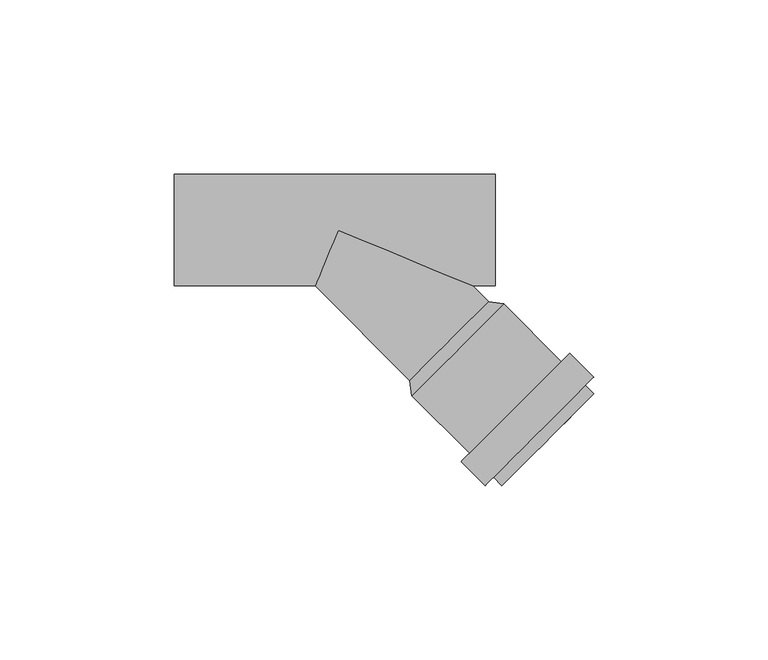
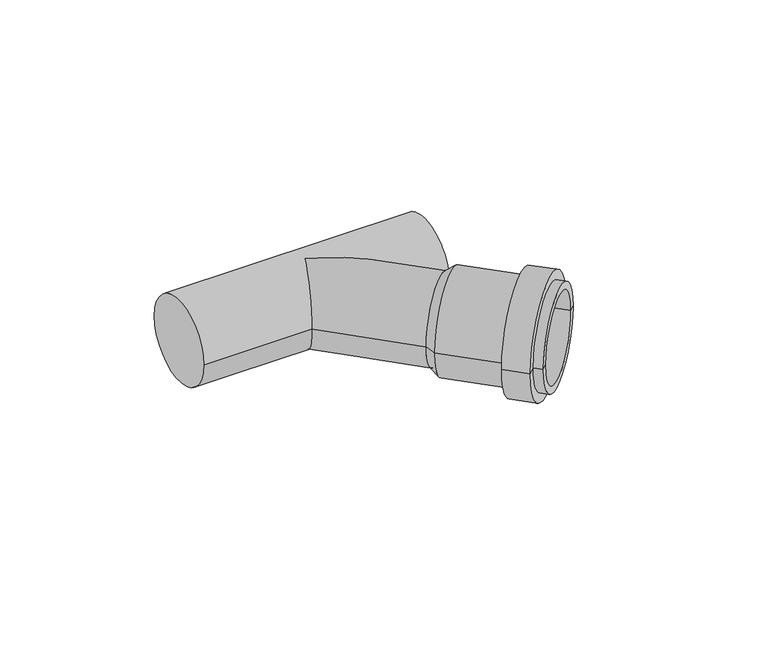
"""IFC4 building model written with IfcOpenShell, lengths in millimetres: pipe fitting geometry, pf_HTEA : pf_HTEA."""

from ifc_helpers import new_model, si_unit, frame, origin, place, context, project, spatial, polyline, circle_curve, ellipse_curve, source, transform, mapped, element, save
from ifc_brep_helpers import plane_surface, cylinder_surface, revolved_surface, advanced_brep


def pipe_fitting_c042d8dd(model_context):
    return source(origin(), model_context, "Body", "AdvancedBrep", [
        advanced_brep(
        [(20.5060967, -43.1335137, 0.0), (43.1335137, -20.5060967, 0.0), (47.446865, -21.1424928, 0.0), (21.1424928, -47.446865, 0.0), (31.8198052, -31.8198052, 0.0), (46.9518903, -73.2562625, 0.0), (73.2562625, -46.9518903, 0.0), (71.4177849, -48.7903679, 0.0), (48.7903679, -71.4177849, 0.0), (44.5477272, -70.8520995, 0.0), (70.8520995, -44.5477272, 0.0), (42.1435642, -73.2562625, 0.0), (73.2562625, -42.1435642, 0.0), (35.2846284, -66.3973268, 0.0), (66.3973268, -35.2846284, 0.0), (37.6887914, -63.9931637, 0.0), (63.9931637, -37.6887914, 0.0), (22.9809704, -45.6083874, 0.0), (45.6083874, -22.9809704, 0.0), (34.2946789, -34.2946789, 0.0)],
        [
            (0, 1, circle_curve(frame((31.8198052, -31.8198052, 0.0), z_axis=(0.7071067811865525, -0.7071067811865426, 0.0), x_axis=(0.7071067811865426, 0.7071067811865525, 0.0)), 16.0)),
            (1, 2),
            (2, 3, circle_curve(frame((34.2946789, -34.2946789, 0.0), z_axis=(-0.7071067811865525, 0.7071067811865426, 0.0), x_axis=(0.7071067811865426, 0.7071067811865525, 0.0)), 18.6)),
            (3, 0),
            (1, 0, circle_curve(frame((31.8198052, -31.8198052, 0.0), z_axis=(0.7071067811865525, -0.7071067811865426, 0.0), x_axis=(0.7071067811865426, 0.7071067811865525, 0.0)), 16.0)),
            (3, 2, circle_curve(frame((34.2946789, -34.2946789, 0.0), z_axis=(-0.7071067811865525, 0.7071067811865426, 0.0), x_axis=(0.7071067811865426, 0.7071067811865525, 0.0)), 18.6)),
            (4, 1),
            (0, 4),
            (5, 6, circle_curve(frame((60.1040764, -60.1040764, 0.0), z_axis=(0.7071067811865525, -0.7071067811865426, 0.0), x_axis=(0.7071067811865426, 0.7071067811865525, 0.0)), 18.6)),
            (6, 7),
            (7, 8, circle_curve(frame((60.1040764, -60.1040764, 0.0), z_axis=(-0.7071067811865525, 0.7071067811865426, 0.0), x_axis=(0.7071067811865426, 0.7071067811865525, 0.0)), 16.0)),
            (8, 5),
            (6, 5, circle_curve(frame((60.1040764, -60.1040764, 0.0), z_axis=(0.7071067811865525, -0.7071067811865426, 0.0), x_axis=(0.7071067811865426, 0.7071067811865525, 0.0)), 18.6)),
            (8, 7, circle_curve(frame((60.1040764, -60.1040764, 0.0), z_axis=(-0.7071067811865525, 0.7071067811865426, 0.0), x_axis=(0.7071067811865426, 0.7071067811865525, 0.0)), 16.0)),
            (9, 10, circle_curve(frame((57.6999133, -57.6999133, 0.0), z_axis=(0.7071067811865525, -0.7071067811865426, 0.0), x_axis=(0.7071067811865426, 0.7071067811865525, 0.0)), 18.6)),
            (10, 6),
            (5, 9),
            (10, 9, circle_curve(frame((57.6999133, -57.6999133, 0.0), z_axis=(0.7071067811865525, -0.7071067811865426, 0.0), x_axis=(0.7071067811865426, 0.7071067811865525, 0.0)), 18.6)),
            (11, 12, circle_curve(frame((57.6999133, -57.6999133, 0.0), z_axis=(0.7071067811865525, -0.7071067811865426, 0.0), x_axis=(0.7071067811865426, 0.7071067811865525, 0.0)), 22.0)),
            (12, 10),
            (9, 11),
            (12, 11, circle_curve(frame((57.6999133, -57.6999133, 0.0), z_axis=(0.7071067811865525, -0.7071067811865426, 0.0), x_axis=(0.7071067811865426, 0.7071067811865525, 0.0)), 22.0)),
            (13, 14, circle_curve(frame((50.8409776, -50.8409776, 0.0), z_axis=(0.7071067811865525, -0.7071067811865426, 0.0), x_axis=(0.7071067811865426, 0.7071067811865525, 0.0)), 22.0)),
            (14, 12),
            (11, 13),
            (14, 13, circle_curve(frame((50.8409776, -50.8409776, 0.0), z_axis=(0.7071067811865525, -0.7071067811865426, 0.0), x_axis=(0.7071067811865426, 0.7071067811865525, 0.0)), 22.0)),
            (15, 16, circle_curve(frame((50.8409776, -50.8409776, 0.0), z_axis=(0.7071067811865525, -0.7071067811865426, 0.0), x_axis=(0.7071067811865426, 0.7071067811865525, 0.0)), 18.6)),
            (16, 14),
            (13, 15),
            (16, 15, circle_curve(frame((50.8409776, -50.8409776, 0.0), z_axis=(0.7071067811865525, -0.7071067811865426, 0.0), x_axis=(0.7071067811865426, 0.7071067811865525, 0.0)), 18.6)),
            (2, 16),
            (15, 3),
            (17, 18, circle_curve(frame((34.2946789, -34.2946789, 0.0), z_axis=(0.7071067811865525, -0.7071067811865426, 0.0), x_axis=(0.7071067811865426, 0.7071067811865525, 0.0)), 16.0)),
            (18, 19),
            (19, 17),
            (18, 17, circle_curve(frame((34.2946789, -34.2946789, 0.0), z_axis=(0.7071067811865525, -0.7071067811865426, 0.0), x_axis=(0.7071067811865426, 0.7071067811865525, 0.0)), 16.0)),
            (7, 18),
            (17, 8),
        ],
        [
            revolved_surface(polyline([(47.446865, -21.1424928, 0.0), (43.1335137, -20.5060967, 0.0)]), (31.8198052, -31.8198052, 0.0), (-0.7071067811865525, 0.7071067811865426, 0.0)),
            plane_surface(frame((31.8198052, -31.8198052, 0.0), z_axis=(-0.7071067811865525, 0.7071067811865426, 0.0), x_axis=(0.7071067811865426, 0.7071067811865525, 0.0))),
            plane_surface(frame((60.1040764, -60.1040764, 0.0), z_axis=(0.7071067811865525, -0.7071067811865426, 0.0), x_axis=(0.7071067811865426, 0.7071067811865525, 0.0))),
            cylinder_surface(frame((31.8198052, -31.8198052, 0.0), z_axis=(-0.7071067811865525, 0.7071067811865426, 0.0), x_axis=(0.7071067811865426, 0.7071067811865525, 0.0)), 18.6),
            plane_surface(frame((57.6999133, -57.6999133, 0.0), z_axis=(0.7071067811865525, -0.7071067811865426, 0.0), x_axis=(0.7071067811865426, 0.7071067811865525, 0.0))),
            cylinder_surface(frame((31.8198052, -31.8198052, 0.0), z_axis=(-0.7071067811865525, 0.7071067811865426, 0.0), x_axis=(0.7071067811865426, 0.7071067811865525, 0.0)), 22.0),
            plane_surface(frame((50.8409776, -50.8409776, 0.0), z_axis=(-0.7071067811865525, 0.7071067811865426, 0.0), x_axis=(0.7071067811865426, 0.7071067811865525, 0.0))),
            plane_surface(frame((34.2946789, -34.2946789, 0.0), z_axis=(0.7071067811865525, -0.7071067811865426, 0.0), x_axis=(0.7071067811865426, 0.7071067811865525, 0.0))),
            revolved_surface(polyline([(45.608387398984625, -22.98097040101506, 0.0), (71.41778489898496, -48.79036790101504, 0.0)]), (31.8198052, -31.8198052, 0.0), (-0.7071067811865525, 0.7071067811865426, 0.0)),
        ],
        [
            (0, [[1, 2, 3, 4]]),
            (0, [[5, -4, 6, -2]]),
            (1, [[7, -1, 8]]),
            (1, [[-8, -5, -7]]),
            (2, [[9, 10, 11, 12]]),
            (2, [[13, -12, 14, -10]]),
            (3, [[15, 16, -9, 17]]),
            (3, [[18, -17, -13, -16]]),
            (4, [[19, 20, -15, 21]]),
            (4, [[22, -21, -18, -20]]),
            (5, [[23, 24, -19, 25]]),
            (5, [[26, -25, -22, -24]]),
            (6, [[27, 28, -23, 29]]),
            (6, [[30, -29, -26, -28]]),
            (3, [[-3, 31, -27, 32]]),
            (3, [[-6, -32, -30, -31]]),
            (7, [[33, 34, 35]]),
            (7, [[36, -35, -34]]),
            (8, [[-11, 37, -33, 38]]),
            (8, [[-14, -38, -36, -37]]),
        ],
    ),
        advanced_brep(
        [(20.5060967, -43.1335137, 0.0), (43.1335137, -20.5060967, 0.0), (-47.0, -16.0, 0.0), (-47.0, 16.0, 0.0), (45.0, -16.0, 0.0), (45.0, 16.0, 0.0), (-6.627417, -16.0, 0.0), (0.0, 0.0, 16.0), (38.627417, -16.0, 0.0), (0.0, 0.0, -16.0)],
        [
            (0, 1, circle_curve(frame((31.8198052, -31.8198052, 0.0), z_axis=(0.7071067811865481, -0.7071067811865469, 0.0), x_axis=(0.7071067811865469, 0.7071067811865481, 0.0)), 16.0)),
            (1, 0, circle_curve(frame((31.8198052, -31.8198052, 0.0), z_axis=(0.7071067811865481, -0.7071067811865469, 0.0), x_axis=(0.7071067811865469, 0.7071067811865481, 0.0)), 16.0)),
            (2, 3, circle_curve(frame((-47.0, 0.0, 0.0), z_axis=(-1.0, 0.0, 0.0), x_axis=(0.0, 1.0, 0.0)), 16.0)),
            (3, 2, circle_curve(frame((-47.0, 0.0, 0.0), z_axis=(-1.0, 0.0, 0.0), x_axis=(0.0, 1.0, 0.0)), 16.0)),
            (4, 5, circle_curve(frame((45.0, 0.0, 0.0), z_axis=(1.0, 0.0, 0.0), x_axis=(0.0, 1.0, 0.0)), 16.0)),
            (5, 4, circle_curve(frame((45.0, 0.0, 0.0), z_axis=(1.0, 0.0, 0.0), x_axis=(0.0, 1.0, 0.0)), 16.0)),
            (2, 6),
            (6, 7, ellipse_curve(frame((0.0, 0.0, 0.0), z_axis=(-0.923879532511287, 0.3826834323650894, 0.0), x_axis=(-0.3826834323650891, -0.9238795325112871, 0.0)), 17.3182752, 16.0)),
            (7, 8, ellipse_curve(frame((0.0, 0.0, 0.0), z_axis=(0.3826834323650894, 0.923879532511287, 0.0), x_axis=(-0.923879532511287, 0.38268343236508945, 0.0)), 41.8100149, 16.0)),
            (8, 4),
            (5, 3),
            (8, 9, ellipse_curve(frame((0.0, 0.0, 0.0), z_axis=(0.3826834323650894, 0.923879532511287, 0.0), x_axis=(-0.923879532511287, 0.38268343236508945, 0.0)), 41.8100149, 16.0)),
            (9, 6, ellipse_curve(frame((0.0, 0.0, 0.0), z_axis=(-0.923879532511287, 0.3826834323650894, 0.0), x_axis=(-0.3826834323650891, -0.9238795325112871, 0.0)), 17.3182752, 16.0)),
            (1, 8),
            (6, 0),
        ],
        [
            plane_surface(frame((31.8198052, -31.8198052, 0.0), z_axis=(0.7071067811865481, -0.7071067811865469, 0.0), x_axis=(0.0, 0.0, 1.0))),
            plane_surface(frame((-47.0, 0.0, 0.0), z_axis=(-1.0, 0.0, 0.0), x_axis=(0.0, 0.0, 1.0))),
            plane_surface(frame((45.0, 0.0, 0.0), z_axis=(1.0, 0.0, 0.0), x_axis=(0.0, 0.0, 1.0))),
            cylinder_surface(frame((-47.0, 0.0, 0.0), z_axis=(-1.0, 0.0, 0.0), x_axis=(0.0, 1.0, 0.0)), 16.0),
            cylinder_surface(frame((0.0, 0.0, 0.0), z_axis=(-0.7071067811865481, 0.7071067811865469, 0.0), x_axis=(0.7071067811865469, 0.7071067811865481, 0.0)), 16.0),
        ],
        [
            (0, [[1, 2]]),
            (1, [[3, 4]]),
            (2, [[5, 6]]),
            (3, [[-3, 7, 8, 9, 10, -6, 11]]),
            (3, [[-4, -11, -5, -10, 12, 13, -7]]),
            (4, [[-2, 14, -9, -8, 15]]),
            (4, [[-1, -15, -13, -12, -14]]),
        ],
    ),
    ])


if __name__ == "__main__":
    model = new_model("IFC4")
    model_context = context("Model", 3, world=origin())
    ifc_project = project(units=[si_unit("LENGTHUNIT", "METRE", prefix="MILLI")], contexts=[model_context])
    site = spatial("IfcSite", under=ifc_project)
    building = spatial("IfcBuilding", under=site)
    placement = place(None, origin())
    pipe_fitting_shape = pipe_fitting_c042d8dd(model_context)
    element("IfcPipeFitting", 1, ObjectType="pf_HTEA : pf_HTEA", at=placement, inside=building, context=model_context, shape_type="MappedRepresentation", body=[
        mapped(pipe_fitting_shape, transform((0.0, 0.0, 0.0), x_axis=(1.0, 0.0, 0.0), y_axis=(0.0, 1.0, 0.0), z_axis=(0.0, 0.0, 1.0))),
    ])
    save(model, "model.ifc")
